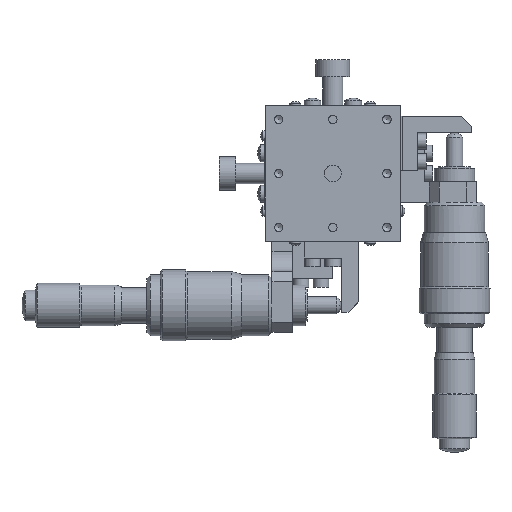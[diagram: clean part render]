
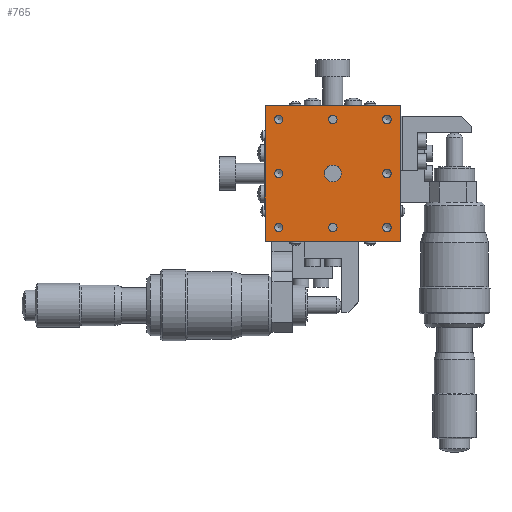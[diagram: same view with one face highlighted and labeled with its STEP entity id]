
A CAD part, top view. The second image highlights one B-rep face of the part: STEP entity #765.
In plain terms, the highlighted planar face has unit normal (0, 0, 1).
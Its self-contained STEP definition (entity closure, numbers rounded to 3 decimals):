
#765 = ADVANCED_FACE( '', ( #1705, #1706, #1707, #1708, #1709, #1710, #1711, #1712, #1713, #1714 ), #1715, .T. );
#1705 = FACE_BOUND( '', #2800, .T. );
#1706 = FACE_BOUND( '', #2801, .T. );
#1707 = FACE_BOUND( '', #2802, .T. );
#1708 = FACE_BOUND( '', #2803, .T. );
#1709 = FACE_BOUND( '', #2804, .T. );
#1710 = FACE_BOUND( '', #2805, .T. );
#1711 = FACE_BOUND( '', #2806, .T. );
#1712 = FACE_BOUND( '', #2807, .T. );
#1713 = FACE_OUTER_BOUND( '', #2808, .T. );
#1714 = FACE_BOUND( '', #2809, .T. );
#1715 = PLANE( '', #2810 );
#2800 = EDGE_LOOP( '', ( #4724 ) );
#2801 = EDGE_LOOP( '', ( #4725 ) );
#2802 = EDGE_LOOP( '', ( #4726 ) );
#2803 = EDGE_LOOP( '', ( #4727 ) );
#2804 = EDGE_LOOP( '', ( #4728 ) );
#2805 = EDGE_LOOP( '', ( #4729 ) );
#2806 = EDGE_LOOP( '', ( #4730 ) );
#2807 = EDGE_LOOP( '', ( #4731 ) );
#2808 = EDGE_LOOP( '', ( #4732, #4733, #4734, #4735 ) );
#2809 = EDGE_LOOP( '', ( #4736 ) );
#2810 = AXIS2_PLACEMENT_3D( '', #4737, #4738, #4739 );
#4724 = ORIENTED_EDGE( '', *, *, #5723, .T. );
#4725 = ORIENTED_EDGE( '', *, *, #5922, .T. );
#4726 = ORIENTED_EDGE( '', *, *, #5819, .T. );
#4727 = ORIENTED_EDGE( '', *, *, #5961, .T. );
#4728 = ORIENTED_EDGE( '', *, *, #6272, .T. );
#4729 = ORIENTED_EDGE( '', *, *, #6273, .T. );
#4730 = ORIENTED_EDGE( '', *, *, #5811, .T. );
#4731 = ORIENTED_EDGE( '', *, *, #5663, .T. );
#4732 = ORIENTED_EDGE( '', *, *, #5635, .T. );
#4733 = ORIENTED_EDGE( '', *, *, #6148, .T. );
#4734 = ORIENTED_EDGE( '', *, *, #6274, .T. );
#4735 = ORIENTED_EDGE( '', *, *, #6032, .T. );
#4736 = ORIENTED_EDGE( '', *, *, #5573, .T. );
#4737 = CARTESIAN_POINT( '', ( 0., 0., 22. ) );
#4738 = DIRECTION( '', ( 0., 0., 1. ) );
#4739 = DIRECTION( '', ( 1., 0., 0. ) );
#5573 = EDGE_CURVE( '', #6495, #6495, #6496, .T. );
#5635 = EDGE_CURVE( '', #6604, #6601, #6605, .T. );
#5663 = EDGE_CURVE( '', #6650, #6650, #6651, .T. );
#5723 = EDGE_CURVE( '', #6755, #6755, #6756, .T. );
#5811 = EDGE_CURVE( '', #6900, #6900, #6901, .T. );
#5819 = EDGE_CURVE( '', #6913, #6913, #6914, .T. );
#5922 = EDGE_CURVE( '', #7074, #7074, #7075, .T. );
#5961 = EDGE_CURVE( '', #7136, #7136, #7137, .T. );
#6032 = EDGE_CURVE( '', #7242, #6604, #7243, .T. );
#6148 = EDGE_CURVE( '', #6601, #7410, #7412, .T. );
#6272 = EDGE_CURVE( '', #7576, #7576, #7577, .T. );
#6273 = EDGE_CURVE( '', #7578, #7578, #7579, .T. );
#6274 = EDGE_CURVE( '', #7410, #7242, #7580, .T. );
#6495 = VERTEX_POINT( '', #7830 );
#6496 = CIRCLE( '', #7831, 2.5 );
#6601 = VERTEX_POINT( '', #7966 );
#6604 = VERTEX_POINT( '', #7970 );
#6605 = LINE( '', #7971, #7972 );
#6650 = VERTEX_POINT( '', #8025 );
#6651 = CIRCLE( '', #8026, 1.25 );
#6755 = VERTEX_POINT( '', #8167 );
#6756 = CIRCLE( '', #8168, 1.25 );
#6900 = VERTEX_POINT( '', #8359 );
#6901 = CIRCLE( '', #8360, 1.25 );
#6913 = VERTEX_POINT( '', #8377 );
#6914 = CIRCLE( '', #8378, 1.25 );
#7074 = VERTEX_POINT( '', #8575 );
#7075 = CIRCLE( '', #8576, 1.25 );
#7136 = VERTEX_POINT( '', #8661 );
#7137 = CIRCLE( '', #8662, 1.25 );
#7242 = VERTEX_POINT( '', #8804 );
#7243 = LINE( '', #8805, #8806 );
#7410 = VERTEX_POINT( '', #9025 );
#7412 = LINE( '', #9028, #9029 );
#7576 = VERTEX_POINT( '', #9242 );
#7577 = CIRCLE( '', #9243, 1.25 );
#7578 = VERTEX_POINT( '', #9244 );
#7579 = CIRCLE( '', #9245, 1.25 );
#7580 = LINE( '', #9246, #9247 );
#7830 = CARTESIAN_POINT( '', ( 2.5, 0., 22. ) );
#7831 = AXIS2_PLACEMENT_3D( '', #9519, #9520, #9521 );
#7966 = CARTESIAN_POINT( '', ( -20., -20., 22. ) );
#7970 = CARTESIAN_POINT( '', ( -20., 20., 22. ) );
#7971 = CARTESIAN_POINT( '', ( -20., 0., 22. ) );
#7972 = VECTOR( '', #9601, 1000. );
#8025 = CARTESIAN_POINT( '', ( -16., -17.25, 22. ) );
#8026 = AXIS2_PLACEMENT_3D( '', #9643, #9644, #9645 );
#8167 = CARTESIAN_POINT( '', ( -16., -1.25, 22. ) );
#8168 = AXIS2_PLACEMENT_3D( '', #9719, #9720, #9721 );
#8359 = CARTESIAN_POINT( '', ( 0., -17.25, 22. ) );
#8360 = AXIS2_PLACEMENT_3D( '', #9826, #9827, #9828 );
#8377 = CARTESIAN_POINT( '', ( 0., 14.75, 22. ) );
#8378 = AXIS2_PLACEMENT_3D( '', #9834, #9835, #9836 );
#8575 = CARTESIAN_POINT( '', ( -16., 14.75, 22. ) );
#8576 = AXIS2_PLACEMENT_3D( '', #9970, #9971, #9972 );
#8661 = CARTESIAN_POINT( '', ( 16., 14.75, 22. ) );
#8662 = AXIS2_PLACEMENT_3D( '', #10015, #10016, #10017 );
#8804 = CARTESIAN_POINT( '', ( 20., 20., 22. ) );
#8805 = CARTESIAN_POINT( '', ( 0., 20., 22. ) );
#8806 = VECTOR( '', #10094, 1000. );
#9025 = CARTESIAN_POINT( '', ( 20., -20., 22. ) );
#9028 = CARTESIAN_POINT( '', ( 0., -20., 22. ) );
#9029 = VECTOR( '', #10229, 1000. );
#9242 = CARTESIAN_POINT( '', ( 16., -1.25, 22. ) );
#9243 = AXIS2_PLACEMENT_3D( '', #10348, #10349, #10350 );
#9244 = CARTESIAN_POINT( '', ( 16., -17.25, 22. ) );
#9245 = AXIS2_PLACEMENT_3D( '', #10351, #10352, #10353 );
#9246 = CARTESIAN_POINT( '', ( 20., 0., 22. ) );
#9247 = VECTOR( '', #10354, 1000. );
#9519 = CARTESIAN_POINT( '', ( 0., 0., 22. ) );
#9520 = DIRECTION( '', ( 0., 0., -1. ) );
#9521 = DIRECTION( '', ( 1., 0., 0. ) );
#9601 = DIRECTION( '', ( 0., -1., 0. ) );
#9643 = CARTESIAN_POINT( '', ( -16., -16., 22. ) );
#9644 = DIRECTION( '', ( 0., 0., -1. ) );
#9645 = DIRECTION( '', ( 0., -1., 0. ) );
#9719 = CARTESIAN_POINT( '', ( -16., 0., 22. ) );
#9720 = DIRECTION( '', ( 0., 0., -1. ) );
#9721 = DIRECTION( '', ( 0., -1., 0. ) );
#9826 = CARTESIAN_POINT( '', ( 0., -16., 22. ) );
#9827 = DIRECTION( '', ( 0., 0., -1. ) );
#9828 = DIRECTION( '', ( 0., -1., 0. ) );
#9834 = CARTESIAN_POINT( '', ( 0., 16., 22. ) );
#9835 = DIRECTION( '', ( 0., 0., -1. ) );
#9836 = DIRECTION( '', ( 0., -1., 0. ) );
#9970 = CARTESIAN_POINT( '', ( -16., 16., 22. ) );
#9971 = DIRECTION( '', ( 0., 0., -1. ) );
#9972 = DIRECTION( '', ( 0., -1., 0. ) );
#10015 = CARTESIAN_POINT( '', ( 16., 16., 22. ) );
#10016 = DIRECTION( '', ( 0., 0., -1. ) );
#10017 = DIRECTION( '', ( 0., -1., 0. ) );
#10094 = DIRECTION( '', ( -1., 0., 0. ) );
#10229 = DIRECTION( '', ( 1., 0., 0. ) );
#10348 = CARTESIAN_POINT( '', ( 16., 0., 22. ) );
#10349 = DIRECTION( '', ( 0., 0., -1. ) );
#10350 = DIRECTION( '', ( 0., -1., 0. ) );
#10351 = CARTESIAN_POINT( '', ( 16., -16., 22. ) );
#10352 = DIRECTION( '', ( 0., 0., -1. ) );
#10353 = DIRECTION( '', ( 0., -1., 0. ) );
#10354 = DIRECTION( '', ( 0., 1., 0. ) );
